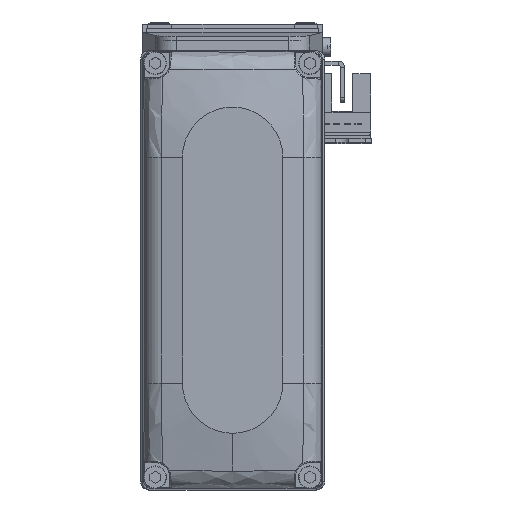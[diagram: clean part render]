
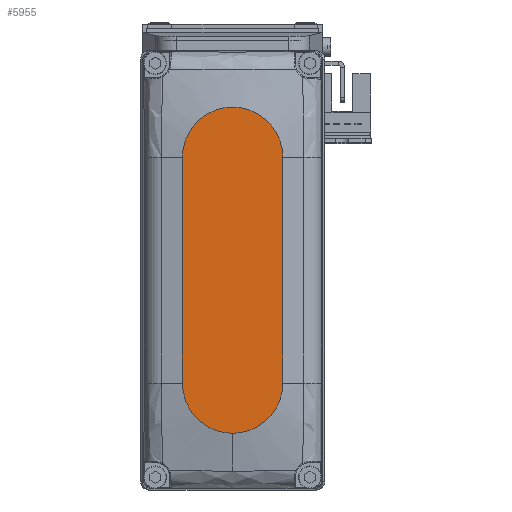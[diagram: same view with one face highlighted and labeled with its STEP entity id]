
A CAD part, top view. The second image highlights one B-rep face of the part: STEP entity #5955.
In plain terms, the highlighted planar face has unit normal (0, 0, 1).
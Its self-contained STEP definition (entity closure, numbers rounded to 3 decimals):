
#2713 = DIRECTION ( 'NONE',  ( 1., 0., 0. ) ) ;
#5135 = CARTESIAN_POINT ( 'NONE',  ( 0., 0., 25. ) ) ;
#5955 = ADVANCED_FACE ( 'NONE', ( #34982 ), #58978, .T. ) ;
#10822 = EDGE_CURVE ( 'NONE', #61214, #48185, #46982, .T. ) ;
#12675 = CARTESIAN_POINT ( 'NONE',  ( 39., 0., 25. ) ) ;
#12900 = EDGE_CURVE ( 'NONE', #76122, #15853, #31420, .T. ) ;
#13227 = AXIS2_PLACEMENT_3D ( 'NONE', #67415, #13544, #37518 ) ;
#13364 = DIRECTION ( 'NONE',  ( -1., 0., 0. ) ) ;
#13544 = DIRECTION ( 'NONE',  ( 0., 0., 1. ) ) ;
#15853 = VERTEX_POINT ( 'NONE', #17688 ) ;
#15975 = EDGE_CURVE ( 'NONE', #15853, #70796, #43233, .T. ) ;
#17093 = DIRECTION ( 'NONE',  ( 1., 0., 0. ) ) ;
#17202 = ORIENTED_EDGE ( 'NONE', *, *, #15975, .T. ) ;
#17688 = CARTESIAN_POINT ( 'NONE',  ( 27., 12., 25. ) ) ;
#18971 = ORIENTED_EDGE ( 'NONE', *, *, #25516, .T. ) ;
#20514 = VECTOR ( 'NONE', #13364, 1000. ) ;
#20522 = DIRECTION ( 'NONE',  ( 0., 0., 1. ) ) ;
#22353 = AXIS2_PLACEMENT_3D ( 'NONE', #74390, #20522, #44518 ) ;
#25516 = EDGE_CURVE ( 'NONE', #48185, #76122, #56247, .T. ) ;
#29093 = DIRECTION ( 'NONE',  ( 0., 0., 1. ) ) ;
#31420 = CIRCLE ( 'NONE', #75396, 12. ) ;
#32569 = CARTESIAN_POINT ( 'NONE',  ( 27., 0., 25. ) ) ;
#32911 = CARTESIAN_POINT ( 'NONE',  ( -27., -12., 25. ) ) ;
#34982 = FACE_OUTER_BOUND ( 'NONE', #48164, .T. ) ;
#37518 = DIRECTION ( 'NONE',  ( 1., 0., 0. ) ) ;
#41245 = CARTESIAN_POINT ( 'NONE',  ( -27., 12., 25. ) ) ;
#43233 = LINE ( 'NONE', #67231, #20514 ) ;
#43996 = ORIENTED_EDGE ( 'NONE', *, *, #77044, .T. ) ;
#44518 = DIRECTION ( 'NONE',  ( 1., 0., 0. ) ) ;
#46982 = LINE ( 'NONE', #70960, #51407 ) ;
#47119 = CIRCLE ( 'NONE', #13227, 12. ) ;
#48164 = EDGE_LOOP ( 'NONE', ( #17202, #43996, #75574, #18971, #71231 ) ) ;
#48185 = VERTEX_POINT ( 'NONE', #72019 ) ;
#50991 = AXIS2_PLACEMENT_3D ( 'NONE', #5135, #29093, #53083 ) ;
#51407 = VECTOR ( 'NONE', #17093, 1000. ) ;
#53083 = DIRECTION ( 'NONE',  ( 1., 0., 0. ) ) ;
#56247 = CIRCLE ( 'NONE', #22353, 12. ) ;
#56540 = DIRECTION ( 'NONE',  ( 0., 0., 1. ) ) ;
#58978 = PLANE ( 'NONE',  #50991 ) ;
#61214 = VERTEX_POINT ( 'NONE', #32911 ) ;
#67231 = CARTESIAN_POINT ( 'NONE',  ( -27., 12., 25. ) ) ;
#67415 = CARTESIAN_POINT ( 'NONE',  ( -27., 0., 25. ) ) ;
#70796 = VERTEX_POINT ( 'NONE', #41245 ) ;
#70960 = CARTESIAN_POINT ( 'NONE',  ( -27., -12., 25. ) ) ;
#71231 = ORIENTED_EDGE ( 'NONE', *, *, #12900, .T. ) ;
#72019 = CARTESIAN_POINT ( 'NONE',  ( 27., -12., 25. ) ) ;
#74390 = CARTESIAN_POINT ( 'NONE',  ( 27., 0., 25. ) ) ;
#75396 = AXIS2_PLACEMENT_3D ( 'NONE', #32569, #56540, #2713 ) ;
#75574 = ORIENTED_EDGE ( 'NONE', *, *, #10822, .T. ) ;
#76122 = VERTEX_POINT ( 'NONE', #12675 ) ;
#77044 = EDGE_CURVE ( 'NONE', #70796, #61214, #47119, .T. ) ;
